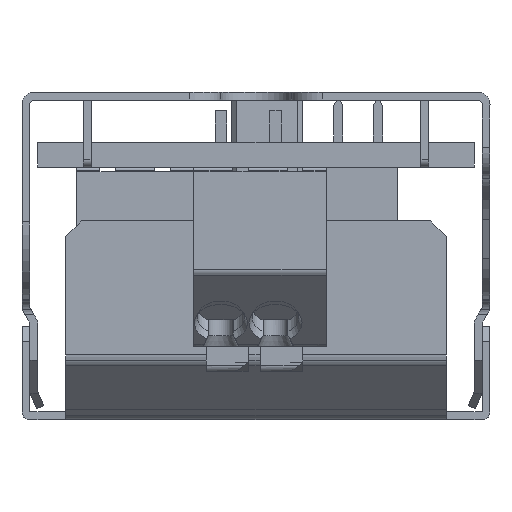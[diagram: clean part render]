
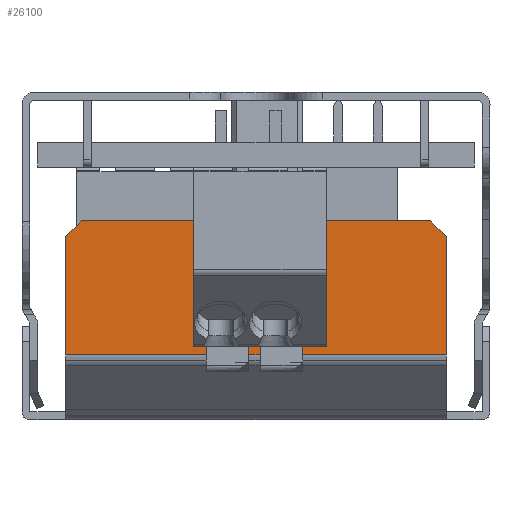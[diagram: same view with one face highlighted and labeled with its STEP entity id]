
A CAD part, front view. The second image highlights one B-rep face of the part: STEP entity #26100.
In plain terms, the highlighted planar face has unit normal (0, -1, 0) as drawn and (1, 0, 0) by its records, which use the part's own axes.
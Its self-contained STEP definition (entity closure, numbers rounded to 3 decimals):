
#24340=CARTESIAN_POINT('',(112.774,-2.8,-1.838));
#24350=VERTEX_POINT('',#24340);
#24380=CARTESIAN_POINT('',(112.774,-2.8,-1.838));
#24390=DIRECTION('',(0.,0.,1.));
#24400=VECTOR('',#24390,1.);
#24410=LINE('',#24380,#24400);
#24420=CARTESIAN_POINT('',(112.774,-2.8,5.748));
#24430=VERTEX_POINT('',#24420);
#24440=EDGE_CURVE('',#24350,#24430,#24410,.T.);
#24680=CARTESIAN_POINT('',(112.774,-3.8,6.748));
#24690=DIRECTION('',(0.,0.707,-0.707));
#24700=VECTOR('',#24690,1.);
#24710=LINE('',#24680,#24700);
#24720=CARTESIAN_POINT('',(112.774,-3.8,6.748));
#24730=VERTEX_POINT('',#24720);
#24740=EDGE_CURVE('',#24730,#24430,#24710,.T.);
#25520=CARTESIAN_POINT('',(112.774,-26.2,6.748));
#25530=DIRECTION('',(0.,1.,0.));
#25540=VECTOR('',#25530,1.);
#25550=LINE('',#25520,#25540);
#25560=CARTESIAN_POINT('',(112.774,-26.2,6.748));
#25570=VERTEX_POINT('',#25560);
#25580=EDGE_CURVE('',#25570,#24730,#25550,.T.);
#25780=CARTESIAN_POINT('',(112.774,0.,6.748));
#25790=DIRECTION('',(1.,0.,0.));
#25800=DIRECTION('',(0.,0.,-1.));
#25810=AXIS2_PLACEMENT_3D('',#25780,#25790,#25800);
#25820=PLANE('',#25810);
#25830=ORIENTED_EDGE('',*,*,#24440,.T.);
#25840=CARTESIAN_POINT('',(112.774,-27.2,-1.838));
#25850=DIRECTION('',(0.,1.,0.));
#25860=VECTOR('',#25850,1.);
#25870=LINE('',#25840,#25860);
#25880=CARTESIAN_POINT('',(112.774,-27.2,-1.838));
#25890=VERTEX_POINT('',#25880);
#25900=EDGE_CURVE('',#25890,#24350,#25870,.T.);
#25910=ORIENTED_EDGE('',*,*,#25900,.T.);
#25920=CARTESIAN_POINT('',(112.774,-27.2,5.748));
#25930=DIRECTION('',(0.,0.,-1.));
#25940=VECTOR('',#25930,1.);
#25950=LINE('',#25920,#25940);
#25960=CARTESIAN_POINT('',(112.774,-27.2,5.748));
#25970=VERTEX_POINT('',#25960);
#25980=EDGE_CURVE('',#25970,#25890,#25950,.T.);
#25990=ORIENTED_EDGE('',*,*,#25980,.T.);
#26000=CARTESIAN_POINT('',(112.774,-27.2,5.748));
#26010=DIRECTION('',(0.,0.707,0.707));
#26020=VECTOR('',#26010,1.);
#26030=LINE('',#26000,#26020);
#26040=EDGE_CURVE('',#25970,#25570,#26030,.T.);
#26050=ORIENTED_EDGE('',*,*,#26040,.F.);
#26060=ORIENTED_EDGE('',*,*,#25580,.F.);
#26070=ORIENTED_EDGE('',*,*,#24740,.F.);
#26080=EDGE_LOOP('',(#26070,#26060,#26050,#25990,#25910,#25830));
#26090=FACE_OUTER_BOUND('',#26080,.T.);
#26100=ADVANCED_FACE('',(#26090),#25820,.T.);
